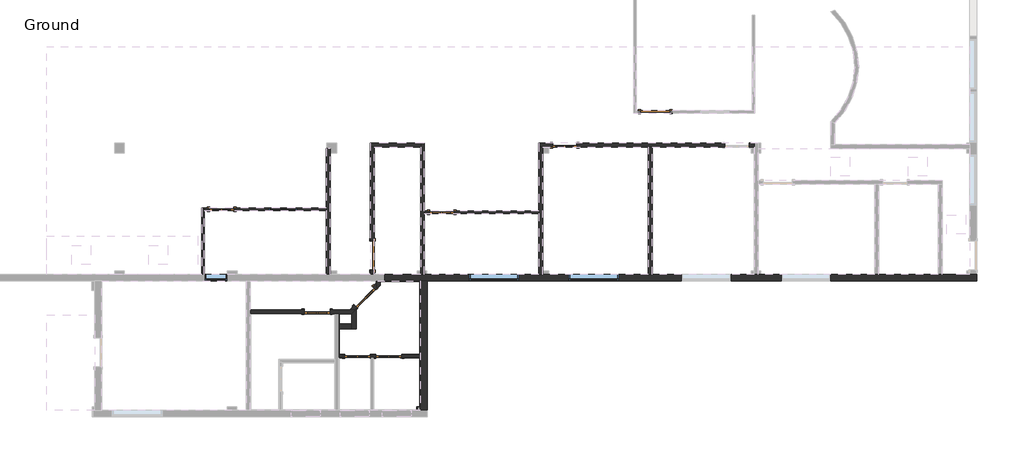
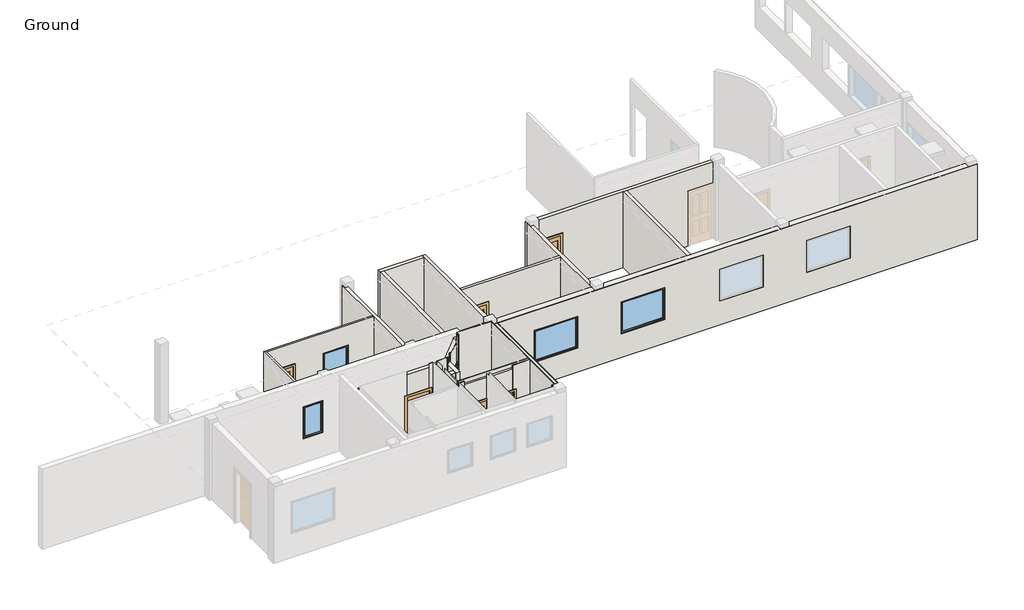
# One storey, part 2 of 4: 34 walls, 9 doors, 4 windows.
"""IFC4 building model written with IfcOpenShell, lengths in millimetres."""

from ifc_helpers import new_model, si_unit, frame, origin, origin_with_axes, place, context, project, spatial, polyline, outline, extrude, faceted_brep, transform, mapped, element, save
from components import door_43f271b1, door_e28fd1ca, door_ea126e43, door_dc1c1a0d, door_456b505c, door_238e255b, door_9f33a548, door_317ed896, window_b7da1b20, window_74e4fc61, window_a0bf6c86

model = new_model("IFC4")

# Units and contexts
model_context = context("Model", 3, world=origin())
ifc_project = project(units=[si_unit("LENGTHUNIT", "METRE", prefix="MILLI")], contexts=[model_context])

# Site, building, storey
site = spatial("IfcSite", under=ifc_project)
building = spatial("IfcBuilding", under=site)
storey = spatial("IfcBuildingStorey", under=building, Name="Ground", Elevation=0.0)

# Doors
placement = place(None, origin())
door_shape = door_43f271b1(model_context)
element("IfcDoor", 1, ObjectType="Single-Flush : 36\" x 80\" - D1", at=placement, inside=storey, context=model_context, shape_type="MappedRepresentation", body=[
    mapped(door_shape, transform((-25082.102824, 9569.42279, 0.0), x_axis=(0.0, -1.0, 0.0), y_axis=(1.0, 0.0, 0.0), z_axis=(0.0, 0.0, 1.0))),
])
door_2_shape = door_e28fd1ca(model_context)
element("IfcDoor", 2, ObjectType="Single-Flush : 36\" x 80\" - D1", at=placement, inside=storey, context=model_context, shape_type="MappedRepresentation", body=[
    mapped(door_2_shape, transform((-16141.302824, 14111.26029, 0.0), x_axis=(-0.9999999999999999, 0.0, 0.0), y_axis=(0.0, -0.9999999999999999, 0.0), z_axis=(0.0, 0.0, 1.0))),
])
door_3_shape = door_ea126e43(model_context)
element("IfcDoor", 3, ObjectType="Single-Glass 3 : 30\" x 80\" - D3", at=placement, inside=storey, context=model_context, shape_type="MappedRepresentation", body=[
    mapped(door_3_shape, transform((-22891.352824, 10934.67279, 0.0), x_axis=(-1.0, 0.0, 0.0), y_axis=(0.0, -1.0, 0.0), z_axis=(0.0, 0.0, 1.0))),
])
element("IfcDoor", 4, ObjectType="Single-Glass 3 : 30\" x 80\" - D3", at=placement, inside=storey, context=model_context, shape_type="MappedRepresentation", body=[
    mapped(door_3_shape, transform((-29843.015324, 11026.74779, 0.0), x_axis=(-1.0, 0.0, 0.0), y_axis=(0.0, -1.0, 0.0), z_axis=(0.0, 0.0, 1.0))),
])
door_4_shape = door_dc1c1a0d(model_context)
element("IfcDoor", 5, ObjectType="Single-Glass 3 : 30\" x 80\" - D3", at=placement, inside=storey, context=model_context, shape_type="MappedRepresentation", body=[
    mapped(door_4_shape, transform((-19005.152824, 13055.57279, 0.0), x_axis=(-1.0, 0.0, 0.0), y_axis=(0.0, -1.0, 0.0), z_axis=(0.0, 0.0, 1.0))),
])
door_5_shape = door_456b505c(model_context)
element("IfcDoor", 6, ObjectType="Single-Glass 3 : 32\" x 80\" - D2", at=placement, inside=storey, context=model_context, shape_type="MappedRepresentation", body=[
    mapped(door_5_shape, transform((-25552.002824, 6378.54779, 0.0), x_axis=(1.0, 0.0, 0.0), y_axis=(0.0, 1.0, 0.0), z_axis=(0.0, 0.0, 1.0))),
])
door_6_shape = door_238e255b(model_context)
element("IfcDoor", 7, ObjectType="Single-Glass 3 : 32\" x 80\" - D2", at=placement, inside=storey, context=model_context, shape_type="MappedRepresentation", body=[
    mapped(door_6_shape, transform((-25316.8739196, 8245.6266944, 0.0), x_axis=(-0.707106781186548, -0.7071067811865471, 0.0), y_axis=(0.7071067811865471, -0.707106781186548, 0.0), z_axis=(0.0, 0.0, 1.0))),
])
door_7_shape = door_9f33a548(model_context)
element("IfcDoor", 8, ObjectType="Single-Glass 3 : 32\" x 80\" - D2", at=placement, inside=storey, context=model_context, shape_type="MappedRepresentation", body=[
    mapped(door_7_shape, transform((-26822.002824, 7788.24779, 0.0), x_axis=(1.0, 0.0, 0.0), y_axis=(0.0, 1.0, 0.0), z_axis=(0.0, 0.0, 1.0))),
])
door_8_shape = door_317ed896(model_context)
element("IfcDoor", 9, ObjectType="Single-Glass 3 : 32\" x 80\" - D2", at=placement, inside=storey, context=model_context, shape_type="MappedRepresentation", body=[
    mapped(door_8_shape, transform((-24561.402824, 6378.54779, 0.0), x_axis=(-1.0, 0.0, 0.0), y_axis=(0.0, -1.0, 0.0), z_axis=(0.0, 0.0, 1.0))),
])

# Walls
element("IfcWall", 10, ObjectType="0.5\" wall tiles-4\" x 6\"", at=placement, inside=storey, context=model_context, shape_type="SweptSolid", body=[
    extrude(outline(polyline([(-26415.602824, 7724.74779), (-26275.902824, 7724.74779), (-26275.902824, 7712.04779), (-26415.602824, 7712.04779), (-26415.602824, 7724.74779)])), origin_with_axes(), (0.0, 0.0, 1.0), 3048.0),
])
element("IfcWall", 11, ObjectType="0.5\" wall tiles-4\" x 6\"", at=placement, inside=storey, context=model_context, shape_type="Brep", body=[
    faceted_brep([(-25560.375674, 7914.5674429, 0.0), (-25586.4560212, 7888.4870957, 0.0), (-25586.4560212, 7888.4870957, 2743.2), (-25586.4560212, 7888.4870957, 3048.0), (-25560.375674, 7914.5674429, 3048.0), (-25551.3954179, 7905.5871868, 0.0), (-25551.3954179, 7905.5871868, 3048.0), (-25586.4560212, 7870.5265835, 3048.0), (-25586.4560212, 7870.5265835, 0.0)], [[[0, 1, 2, 3, 4]], [[5, 6, 7, 8]], [[1, 0, 5, 8]], [[4, 3, 7, 6]], [[0, 4, 6, 5]], [[3, 2, 1, 8, 7]]]),
])
element("IfcWall", 12, ObjectType="0.5\" wall tiles-4\" x 6\"", at=placement, inside=storey, context=model_context, shape_type="Brep", body=[
    faceted_brep([(-25750.1953269, 7724.74779, 0.0), (-26136.202824, 7724.74779, 0.0), (-26136.202824, 7724.74779, 3048.0), (-25750.1953269, 7724.74779, 3048.0), (-25762.8953269, 7712.04779, 0.0), (-25762.8953269, 7712.04779, 3048.0), (-26123.502824, 7712.04779, 3048.0), (-26136.202824, 7712.04779, 3048.0), (-26136.202824, 7712.04779, 0.0), (-26123.502824, 7712.04779, 0.0)], [[[0, 1, 2, 3]], [[4, 5, 6, 7, 8, 9]], [[1, 0, 4, 9, 8]], [[3, 2, 7, 6, 5]], [[2, 1, 8, 7]], [[0, 3, 5, 4]]]),
])
element("IfcWall", 13, ObjectType="0.5\" wall tiles-4\" x 6\"", at=placement, inside=storey, context=model_context, shape_type="Brep", body=[
    faceted_brep([(-26136.202824, 7712.04779, 0.0), (-26136.202824, 7394.54779, 0.0), (-26136.202824, 7394.54779, 2743.2), (-26136.202824, 7394.54779, 3048.0), (-26136.202824, 7712.04779, 3048.0), (-26123.502824, 7712.04779, 0.0), (-26123.502824, 7712.04779, 3048.0), (-26123.502824, 7394.54779, 3048.0), (-26123.502824, 7394.54779, 0.0)], [[[0, 1, 2, 3, 4]], [[5, 6, 7, 8]], [[1, 0, 5, 8]], [[4, 3, 7, 6]], [[0, 4, 6, 5]], [[3, 2, 1, 8, 7]]]),
])
element("IfcWall", 14, ObjectType="0.5\" wall tiles-4\" x 6\"", at=placement, inside=storey, context=model_context, shape_type="Brep", body=[
    faceted_brep([(-25145.7268406, 6418.23529, 2032.0), (-25145.7268406, 6418.23529, 0.0), (-24967.6788075, 6418.23529, 0.0), (-24967.6788075, 6418.23529, 2032.0), (-24154.8788075, 6418.23529, 2032.0), (-24154.8788075, 6418.23529, 0.0), (-23566.040324, 6418.23529, 0.0), (-23566.040324, 6418.23529, 2895.6), (-23566.040324, 6418.23529, 3048.0), (-26136.202824, 6418.23529, 3048.0), (-26136.202824, 6418.23529, 2895.6), (-26136.202824, 6418.23529, 0.0), (-25958.5268406, 6418.23529, 0.0), (-25958.5268406, 6418.23529, 2032.0), (-24967.6788075, 6430.93529, 0.0), (-25145.7268406, 6430.93529, 0.0), (-25145.7268406, 6430.93529, 2032.0), (-25958.5268406, 6430.93529, 2032.0), (-25958.5268406, 6430.93529, 0.0), (-26123.502824, 6430.93529, 0.0), (-26136.202824, 6430.93529, 0.0), (-26136.202824, 6430.93529, 3048.0), (-26123.502824, 6430.93529, 3048.0), (-23578.740324, 6430.93529, 3048.0), (-23566.040324, 6430.93529, 3048.0), (-23566.040324, 6430.93529, 0.0), (-23578.740324, 6430.93529, 0.0), (-24154.8788075, 6430.93529, 0.0), (-24154.8788075, 6430.93529, 2032.0), (-24967.6788075, 6430.93529, 2032.0)], [[[0, 1, 2, 3, 4, 5, 6, 7, 8, 9, 10, 11, 12, 13]], [[14, 15, 16, 17, 18, 19, 20, 21, 22, 23, 24, 25, 26, 27, 28, 29]], [[2, 1, 15, 14]], [[27, 26, 25, 6, 5]], [[12, 11, 20, 19, 18]], [[9, 8, 24, 23, 22, 21]], [[11, 10, 9, 21, 20]], [[8, 7, 6, 25, 24]], [[3, 2, 14, 29]], [[4, 3, 29, 28]], [[5, 4, 28, 27]], [[16, 15, 1, 0]], [[17, 16, 0, 13]], [[18, 17, 13, 12]]]),
])
element("IfcWall", 15, ObjectType="0.5\" wall tiles-4\" x 6\"", at=placement, inside=storey, context=model_context, shape_type="Brep", body=[
    faceted_brep([(-26136.202824, 7242.14779, 0.0), (-26136.202824, 6430.93529, 0.0), (-26136.202824, 6430.93529, 3048.0), (-26136.202824, 7242.14779, 3048.0), (-26136.202824, 7242.14779, 2743.2), (-26123.502824, 7242.14779, 0.0), (-26123.502824, 7242.14779, 3048.0), (-26123.502824, 6430.93529, 3048.0), (-26123.502824, 6430.93529, 0.0)], [[[0, 1, 2, 3, 4]], [[5, 6, 7, 8]], [[1, 0, 5, 8]], [[3, 2, 7, 6]], [[2, 1, 8, 7]], [[0, 4, 3, 6, 5]]]),
])
element("IfcWall", 16, ObjectType="0.5\" wall tiles-4\" x 6\"", at=placement, inside=storey, context=model_context, shape_type="Brep", body=[
    faceted_brep([(-25738.8560212, 7736.0870957, 0.0), (-25750.1953269, 7724.74779, 0.0), (-25762.8953269, 7712.04779, 0.0), (-25762.8953269, 7712.04779, 3048.0), (-25750.1953269, 7724.74779, 3048.0), (-25738.8560212, 7736.0870957, 3048.0), (-25738.8560212, 7736.0870957, 2743.2), (-25738.8560212, 7718.1265835, 0.0), (-25738.8560212, 7718.1265835, 3048.0), (-25744.9348146, 7712.04779, 3048.0), (-25744.9348146, 7712.04779, 0.0)], [[[0, 1, 2, 3, 4, 5, 6]], [[7, 8, 9, 10]], [[2, 1, 0, 7, 10]], [[5, 4, 3, 9, 8]], [[3, 2, 10, 9]], [[0, 6, 5, 8, 7]]]),
])
element("IfcWall", 17, ObjectType="0.5\" wall tiles-4\" x 6\"", at=placement, inside=storey, context=model_context, shape_type="Brep", body=[
    faceted_brep([(-23566.040324, 6430.93529, 0.0), (-23566.040324, 8753.44779, 0.0), (-23566.040324, 8753.44779, 3048.0), (-23566.040324, 6430.93529, 3048.0), (-23578.740324, 6430.93529, 0.0), (-23578.740324, 6430.93529, 3048.0), (-23578.740324, 8740.74779, 3048.0), (-23578.740324, 8753.44779, 3048.0), (-23578.740324, 8753.44779, 0.0), (-23578.740324, 8740.74779, 0.0)], [[[0, 1, 2, 3]], [[4, 5, 6, 7, 8, 9]], [[1, 0, 4, 9, 8]], [[3, 2, 7, 6, 5]], [[2, 1, 8, 7]], [[0, 3, 5, 4]]]),
])
element("IfcWall", 18, ObjectType="0.5\" wall tiles-4\" x 6\"", at=placement, inside=storey, context=model_context, shape_type="Brep", body=[
    faceted_brep([(-23578.740324, 8753.44779, 0.0), (-24836.040324, 8753.44779, 0.0), (-24836.040324, 8753.44779, 3048.0), (-23578.740324, 8753.44779, 3048.0), (-23578.740324, 8740.74779, 0.0), (-23578.740324, 8740.74779, 3048.0), (-24823.340324, 8740.74779, 3048.0), (-24836.040324, 8740.74779, 3048.0), (-24836.040324, 8740.74779, 0.0), (-24823.340324, 8740.74779, 0.0)], [[[0, 1, 2, 3]], [[4, 5, 6, 7, 8, 9]], [[1, 0, 4, 9, 8]], [[3, 2, 7, 6, 5]], [[2, 1, 8, 7]], [[0, 3, 5, 4]]]),
])
element("IfcWall", 19, ObjectType="0.5\" wall tiles-4\" x 6\"", at=placement, inside=storey, context=model_context, shape_type="Brep", body=[
    faceted_brep([(-24836.040324, 8740.74779, 0.0), (-24836.040324, 8638.9027929, 0.0), (-24836.040324, 8620.9422806, 0.0), (-24836.040324, 8620.9422806, 3048.0), (-24836.040324, 8638.9027929, 3048.0), (-24836.040324, 8740.74779, 3048.0), (-24823.340324, 8740.74779, 0.0), (-24823.340324, 8740.74779, 3048.0), (-24823.340324, 8633.6422806, 3048.0), (-24823.340324, 8633.6422806, 0.0)], [[[0, 1, 2, 3, 4, 5]], [[6, 7, 8, 9]], [[2, 1, 0, 6, 9]], [[5, 4, 3, 8, 7]], [[3, 2, 9, 8]], [[0, 5, 7, 6]]]),
])
element("IfcWall", 20, ObjectType="0.5\" wall tiles-4\" x 6\"", at=placement, inside=storey, context=model_context, shape_type="SweptSolid", body=[
    extrude(outline(polyline([(-24984.7299377, 8490.2131792), (-24836.040324, 8638.9027929), (-24836.040324, 8620.9422806), (-24975.7496815, 8481.2329231), (-24984.7299377, 8490.2131792)])), origin_with_axes(), (0.0, 0.0, 1.0), 3048.0),
])
element("IfcWall", 21, ObjectType="0.5\" wall tiles-4\" x 6\"", at=placement, inside=storey, context=model_context, shape_type="Brep", body=[
    faceted_brep([(-25958.5268406, 6338.86029, 0.0), (-26136.202824, 6338.86029, 0.0), (-26136.202824, 6338.86029, 3048.0), (-25958.5268406, 6338.86029, 3048.0), (-25958.5268406, 6326.16029, 0.0), (-25958.5268406, 6326.16029, 3048.0), (-26123.502824, 6326.16029, 3048.0), (-26136.202824, 6326.16029, 3048.0), (-26136.202824, 6326.16029, 0.0), (-26123.502824, 6326.16029, 0.0)], [[[0, 1, 2, 3]], [[4, 5, 6, 7, 8, 9]], [[1, 0, 4, 9, 8]], [[3, 2, 7, 6, 5]], [[0, 3, 5, 4]], [[2, 1, 8, 7]]]),
])
element("IfcWall", 22, ObjectType="0.5\" wall tiles-4\" x 6\"", at=placement, inside=storey, context=model_context, shape_type="Brep", body=[
    faceted_brep([(-23664.465324, 4687.86029, 0.0), (-23664.465324, 4773.58529, 0.0), (-23664.465324, 4786.28529, 0.0), (-23664.465324, 4786.28529, 3048.0), (-23664.465324, 4773.58529, 3048.0), (-23664.465324, 4687.86029, 3048.0), (-23677.165324, 4687.86029, 0.0), (-23677.165324, 4687.86029, 3048.0), (-23677.165324, 4786.28529, 3048.0), (-23677.165324, 4786.28529, 0.0)], [[[0, 1, 2, 3, 4, 5]], [[6, 7, 8, 9]], [[2, 1, 0, 6, 9]], [[5, 4, 3, 8, 7]], [[3, 2, 9, 8]], [[0, 5, 7, 6]]]),
])
element("IfcWall", 23, ObjectType="0.5\" wall tiles-4\" x 6\"", at=placement, inside=storey, context=model_context, shape_type="Brep", body=[
    faceted_brep([(-23664.465324, 4773.58529, 0.0), (-23566.040324, 4773.58529, 0.0), (-23566.040324, 4773.58529, 3048.0), (-23664.465324, 4773.58529, 3048.0), (-23664.465324, 4786.28529, 0.0), (-23664.465324, 4786.28529, 3048.0), (-23578.740324, 4786.28529, 3048.0), (-23566.040324, 4786.28529, 3048.0), (-23566.040324, 4786.28529, 0.0), (-23578.740324, 4786.28529, 0.0)], [[[0, 1, 2, 3]], [[4, 5, 6, 7, 8, 9]], [[1, 0, 4, 9, 8]], [[3, 2, 7, 6, 5]], [[2, 1, 8, 7]], [[0, 3, 5, 4]]]),
])
element("IfcWall", 24, ObjectType="0.5\" wall tiles-4\" x 6\"", at=placement, inside=storey, context=model_context, shape_type="Brep", body=[
    faceted_brep([(-23566.040324, 4786.28529, 0.0), (-23566.040324, 6338.86029, 0.0), (-23566.040324, 6338.86029, 3048.0), (-23566.040324, 4786.28529, 3048.0), (-23578.740324, 4786.28529, 0.0), (-23578.740324, 4786.28529, 3048.0), (-23578.740324, 6326.16029, 3048.0), (-23578.740324, 6338.86029, 3048.0), (-23578.740324, 6338.86029, 0.0), (-23578.740324, 6326.16029, 0.0)], [[[0, 1, 2, 3]], [[4, 5, 6, 7, 8, 9]], [[1, 0, 4, 9, 8]], [[3, 2, 7, 6, 5]], [[2, 1, 8, 7]], [[0, 3, 5, 4]]]),
])
element("IfcWall", 25, ObjectType="0.5\" wall tiles-4\" x 6\"", at=placement, inside=storey, context=model_context, shape_type="SweptSolid", body=[
    extrude(outline(polyline([(-24204.3928001, 6338.86029), (-23578.740324, 6338.86029), (-23578.740324, 6326.16029), (-24204.3928001, 6326.16029), (-24204.3928001, 6338.86029)])), origin_with_axes(), (0.0, 0.0, 1.0), 3048.0),
])
element("IfcWall", 26, ObjectType="Generic - 6\"", at=placement, inside=storey, context=model_context, shape_type="Brep", body=[
    faceted_brep([(-25738.8560212, 7736.0870957, 0.0), (-25738.8560212, 7718.1265835, 0.0), (-25738.8560212, 7394.54779, 0.0), (-25738.8560212, 7242.14779, 0.0), (-25738.8560212, 7242.14779, 2743.2), (-25738.8560212, 7394.54779, 2743.2), (-25738.8560212, 7736.0870957, 2743.2), (-25586.4560212, 7888.4870957, 0.0), (-25586.4560212, 7888.4870957, 2743.2), (-25586.4560212, 7242.14779, 2743.2), (-25586.4560212, 7242.14779, 0.0), (-25586.4560212, 7870.5265835, 0.0), (-25623.1953269, 7851.74779, 0.0)], [[[0, 1, 2, 3, 4, 5, 6]], [[7, 8, 9, 10, 11]], [[3, 2, 1, 0, 12, 7, 11, 10]], [[6, 5, 4, 9, 8]], [[4, 3, 10, 9]], [[0, 6, 8, 7, 12]]]),
])
element("IfcWall", 27, ObjectType="Generic - 6\"", at=placement, inside=storey, context=model_context, shape_type="Brep", body=[
    faceted_brep([(-25738.8560212, 7394.54779, 0.0), (-26123.502824, 7394.54779, 0.0), (-26136.202824, 7394.54779, 0.0), (-26136.202824, 7394.54779, 2743.2), (-25738.8560212, 7394.54779, 2743.2), (-25738.8560212, 7242.14779, 0.0), (-25738.8560212, 7242.14779, 2743.2), (-26136.202824, 7242.14779, 2743.2), (-26136.202824, 7242.14779, 0.0), (-26123.502824, 7242.14779, 0.0)], [[[0, 1, 2, 3, 4]], [[5, 6, 7, 8, 9]], [[2, 1, 0, 5, 9, 8]], [[4, 3, 7, 6]], [[3, 2, 8, 7]], [[0, 4, 6, 5]]]),
])
element("IfcWall", 28, ObjectType="Generic - 8\" Masonry existing", at=placement, inside=storey, context=model_context, shape_type="Brep", body=[
    faceted_brep([(-24701.102824, 8753.44779, 0.0), (-23566.040324, 8753.44779, 0.0), (-23346.965324, 8753.44779, 0.0), (-5986.065324, 8753.44779, 0.0), (-5986.065324, 8753.44779, 2895.6), (-5998.765324, 8753.44779, 2895.6), (-23346.965324, 8753.44779, 2895.6), (-23566.040324, 8753.44779, 2895.6), (-24701.102824, 8753.44779, 2895.6), (-22021.402824, 8753.44779, 2133.6), (-20446.602824, 8753.44779, 2133.6), (-20446.602824, 8753.44779, 914.4), (-22021.402824, 8753.44779, 914.4), (-18871.802824, 8753.44779, 2133.6), (-17297.002824, 8753.44779, 2133.6), (-17297.002824, 8753.44779, 914.4), (-18871.802824, 8753.44779, 914.4), (-12166.202824, 8753.44779, 2133.6), (-10591.402824, 8753.44779, 2133.6), (-10591.402824, 8753.44779, 914.4), (-12166.202824, 8753.44779, 914.4), (-15315.802824, 8753.44779, 2133.6), (-13741.002824, 8753.44779, 2133.6), (-13741.002824, 8753.44779, 914.4), (-15315.802824, 8753.44779, 914.4), (-24701.102824, 8972.52279, 0.0), (-24701.102824, 8972.52279, 2895.6), (-23556.515324, 8972.52279, 2895.6), (-23432.690324, 8972.52279, 2895.6), (-19827.477824, 8972.52279, 2895.6), (-19703.652824, 8972.52279, 2895.6), (-16355.615324, 8972.52279, 2895.6), (-16231.790324, 8972.52279, 2895.6), (-13015.515324, 8972.52279, 2895.6), (-12891.690324, 8972.52279, 2895.6), (-9207.102824, 8972.52279, 2895.6), (-9083.277824, 8972.52279, 2895.6), (-7195.740324, 8972.52279, 2895.6), (-7071.915324, 8972.52279, 2895.6), (-6205.140324, 8972.52279, 2895.6), (-5998.765324, 8972.52279, 2895.6), (-5986.065324, 8972.52279, 2895.6), (-5986.065324, 8972.52279, 0.0), (-6205.140324, 8972.52279, 0.0), (-7071.915324, 8972.52279, 0.0), (-7195.740324, 8972.52279, 0.0), (-9083.277824, 8972.52279, 0.0), (-9207.102824, 8972.52279, 0.0), (-12891.690324, 8972.52279, 0.0), (-13015.515324, 8972.52279, 0.0), (-16231.790324, 8972.52279, 0.0), (-16355.615324, 8972.52279, 0.0), (-19703.652824, 8972.52279, 0.0), (-19827.477824, 8972.52279, 0.0), (-23432.690324, 8972.52279, 0.0), (-23556.515324, 8972.52279, 0.0), (-22021.402824, 8972.52279, 2133.6), (-22021.402824, 8972.52279, 914.4), (-20446.602824, 8972.52279, 914.4), (-20446.602824, 8972.52279, 2133.6), (-18871.802824, 8972.52279, 2133.6), (-18871.802824, 8972.52279, 914.4), (-17297.002824, 8972.52279, 914.4), (-17297.002824, 8972.52279, 2133.6), (-12166.202824, 8972.52279, 2133.6), (-12166.202824, 8972.52279, 914.4), (-10591.402824, 8972.52279, 914.4), (-10591.402824, 8972.52279, 2133.6), (-15315.802824, 8972.52279, 2133.6), (-15315.802824, 8972.52279, 914.4), (-13741.002824, 8972.52279, 914.4), (-13741.002824, 8972.52279, 2133.6), (-24701.102824, 8766.14779, 2895.6), (-5986.065324, 8766.14779, 2895.6), (-5998.765324, 8766.14779, 2895.6), (-23359.665324, 8766.14779, 2895.6)], [[[0, 1, 2, 3, 4, 5, 6, 7, 8], [9, 10, 11, 12], [13, 14, 15, 16], [17, 18, 19, 20], [21, 22, 23, 24]], [[25, 26, 27, 28, 29, 30, 31, 32, 33, 34, 35, 36, 37, 38, 39, 40, 41, 42, 43, 44, 45, 46, 47, 48, 49, 50, 51, 52, 53, 54, 55], [56, 57, 58, 59], [60, 61, 62, 63], [64, 65, 66, 67], [68, 69, 70, 71]], [[3, 2, 1, 0, 25, 55, 54, 53, 52, 51, 50, 49, 48, 47, 46, 45, 44, 43, 42]], [[0, 8, 72, 26, 25]], [[4, 3, 42, 41, 73]], [[8, 7, 6, 5, 74, 75, 72]], [[73, 41, 40, 74]], [[5, 4, 73, 74]], [[74, 40, 39, 38, 37, 36, 35, 34, 33, 32, 31, 30, 29, 28, 27, 26, 72, 75]], [[57, 56, 9, 12]], [[58, 57, 12, 11]], [[59, 58, 11, 10]], [[56, 59, 10, 9]], [[61, 60, 13, 16]], [[62, 61, 16, 15]], [[63, 62, 15, 14]], [[60, 63, 14, 13]], [[65, 64, 17, 20]], [[66, 65, 20, 19]], [[67, 66, 19, 18]], [[64, 67, 18, 17]], [[69, 68, 21, 24]], [[70, 69, 24, 23]], [[71, 70, 23, 22]], [[68, 71, 22, 21]]]),
])
element("IfcWall", 29, ObjectType="Generic - 8\" Masonry existing", at=placement, inside=storey, context=model_context, shape_type="Brep", body=[
    faceted_brep([(-23566.040324, 8753.44779, 0.0), (-23566.040324, 6418.23529, 0.0), (-23566.040324, 6338.86029, 0.0), (-23566.040324, 4675.16029, 0.0), (-23566.040324, 4675.16029, 2895.6), (-23566.040324, 6338.86029, 2895.6), (-23566.040324, 6418.23529, 2895.6), (-23566.040324, 8753.44779, 2895.6), (-23346.965324, 8753.44779, 0.0), (-23346.965324, 8753.44779, 2895.6), (-23346.965324, 4675.16029, 2895.6), (-23346.965324, 4675.16029, 0.0), (-23359.665324, 4675.16029, 2895.6), (-23359.665324, 8753.44779, 2895.6)], [[[0, 1, 2, 3, 4, 5, 6, 7]], [[8, 9, 10, 11]], [[3, 2, 1, 0, 8, 11]], [[4, 3, 11, 10, 12]], [[0, 7, 13, 9, 8]], [[12, 10, 9, 13]], [[7, 6, 5, 4, 12, 13]]]),
])
element("IfcWall", 30, ObjectType="Interior - 3 1/8\" Partition (1-hr)", at=placement, inside=storey, context=model_context, shape_type="Brep", body=[
    faceted_brep([(-30476.427824, 11066.43529, 0.0), (-30476.427824, 8972.52279, 0.0), (-30476.427824, 8972.52279, 2895.6), (-30476.427824, 11066.43529, 2895.6), (-30397.052824, 11066.43529, 0.0), (-30397.052824, 11066.43529, 2895.6), (-30397.052824, 10987.06029, 2895.6), (-30397.052824, 8972.52279, 2895.6), (-30397.052824, 8972.52279, 0.0), (-30397.052824, 10987.06029, 0.0)], [[[0, 1, 2, 3]], [[4, 5, 6, 7, 8, 9]], [[1, 0, 4, 9, 8]], [[3, 2, 7, 6, 5]], [[0, 3, 5, 4]], [[2, 1, 8, 7]]]),
])
element("IfcWall", 31, ObjectType="Interior - 3 1/8\" Partition (1-hr)", at=placement, inside=storey, context=model_context, shape_type="SweptSolid", body=[
    extrude(outline(polyline([(0.0, -23432.690324), (0.0, -23272.2288075), (2032.0, -23272.2288075), (2032.0, -22510.2288075), (0.0, -22510.2288075), (0.0, -19827.477824), (2895.6, -19827.477824), (2895.6, -23432.690324), (0.0, -23432.690324)])), frame((0.0, 10894.98529, 0.0), z_axis=(0.0, 1.0, 0.0), x_axis=(0.0, 0.0, 1.0)), (0.0, 0.0, 1.0), 79.375),
])
element("IfcWall", 32, ObjectType="Interior - 3 1/8\" Partition (1-hr)", at=placement, inside=storey, context=model_context, shape_type="SweptSolid", body=[
    extrude(outline(polyline([(0.0, -30397.052824), (0.0, -30223.8913075), (2032.0, -30223.8913075), (2032.0, -29461.8913075), (0.0, -29461.8913075), (0.0, -26533.077824), (2895.6, -26533.077824), (2895.6, -30397.052824), (0.0, -30397.052824)]), holes=[polyline([(2133.6, -28369.815324), (2133.6, -27455.415324), (914.4, -27455.415324), (914.4, -28369.815324), (2133.6, -28369.815324)])]), frame((0.0, 10987.06029, 0.0), z_axis=(0.0, 1.0, 0.0), x_axis=(0.0, 0.0, 1.0)), (0.0, 0.0, 1.0), 79.375),
])
element("IfcWall", 33, ObjectType="Interior - 3 1/8\" Partition (1-hr)", at=placement, inside=storey, context=model_context, shape_type="Brep", body=[
    faceted_brep([(-25145.7268406, 6338.86029, 2032.0), (-25145.7268406, 6338.86029, 0.0), (-25123.377824, 6338.86029, 0.0), (-25044.002824, 6338.86029, 0.0), (-24967.6788075, 6338.86029, 0.0), (-24967.6788075, 6338.86029, 2032.0), (-24154.8788075, 6338.86029, 2032.0), (-24154.8788075, 6338.86029, 0.0), (-23566.040324, 6338.86029, 0.0), (-23566.040324, 6338.86029, 2895.6), (-25044.002824, 6338.86029, 2895.6), (-25123.377824, 6338.86029, 2895.6), (-26136.202824, 6338.86029, 2895.6), (-26136.202824, 6338.86029, 0.0), (-25958.5268406, 6338.86029, 0.0), (-25958.5268406, 6338.86029, 2032.0), (-24967.6788075, 6418.23529, 0.0), (-25145.7268406, 6418.23529, 0.0), (-25145.7268406, 6418.23529, 2032.0), (-25958.5268406, 6418.23529, 2032.0), (-25958.5268406, 6418.23529, 0.0), (-26136.202824, 6418.23529, 0.0), (-26136.202824, 6418.23529, 2895.6), (-23566.040324, 6418.23529, 2895.6), (-23566.040324, 6418.23529, 0.0), (-24154.8788075, 6418.23529, 0.0), (-24154.8788075, 6418.23529, 2032.0), (-24967.6788075, 6418.23529, 2032.0)], [[[0, 1, 2, 3, 4, 5, 6, 7, 8, 9, 10, 11, 12, 13, 14, 15]], [[16, 17, 18, 19, 20, 21, 22, 23, 24, 25, 26, 27]], [[4, 3, 2, 1, 17, 16]], [[25, 24, 8, 7]], [[14, 13, 21, 20]], [[12, 11, 10, 9, 23, 22]], [[9, 8, 24, 23]], [[13, 12, 22, 21]], [[5, 4, 16, 27]], [[6, 5, 27, 26]], [[7, 6, 26, 25]], [[18, 17, 1, 0]], [[19, 18, 0, 15]], [[20, 19, 15, 14]]]),
])
element("IfcWall", 34, ObjectType="Interior - 5 1/2\" Partition (1-hr)", at=placement, inside=storey, context=model_context, shape_type="Brep", body=[
    faceted_brep([(-13015.515324, 13117.48529, 0.0), (-13175.9768406, 13117.48529, 0.0), (-13175.9768406, 13117.48529, 2032.0), (-13937.9768406, 13117.48529, 2032.0), (-13937.9768406, 13117.48529, 0.0), (-18624.0288075, 13117.48529, 0.0), (-18624.0288075, 13117.48529, 2032.0), (-19386.0288075, 13117.48529, 2032.0), (-19386.0288075, 13117.48529, 0.0), (-19827.477824, 13117.48529, 0.0), (-19827.477824, 13117.48529, 2895.6), (-13015.515324, 13117.48529, 2895.6), (-13175.9768406, 12993.66029, 2032.0), (-13175.9768406, 12993.66029, 0.0), (-13015.515324, 12993.66029, 0.0), (-13015.515324, 12993.66029, 2895.6), (-16231.790324, 12993.66029, 2895.6), (-16355.615324, 12993.66029, 2895.6), (-19703.652824, 12993.66029, 2895.6), (-19827.477824, 12993.66029, 2895.6), (-19827.477824, 12993.66029, 0.0), (-19703.652824, 12993.66029, 0.0), (-19386.0288075, 12993.66029, 0.0), (-19386.0288075, 12993.66029, 2032.0), (-18624.0288075, 12993.66029, 2032.0), (-18624.0288075, 12993.66029, 0.0), (-16355.615324, 12993.66029, 0.0), (-16231.790324, 12993.66029, 0.0), (-13937.9768406, 12993.66029, 0.0), (-13937.9768406, 12993.66029, 2032.0)], [[[0, 1, 2, 3, 4, 5, 6, 7, 8, 9, 10, 11]], [[12, 13, 14, 15, 16, 17, 18, 19, 20, 21, 22, 23, 24, 25, 26, 27, 28, 29]], [[20, 9, 8, 22, 21]], [[14, 13, 1, 0]], [[28, 27, 26, 25, 5, 4]], [[11, 10, 19, 18, 17, 16, 15]], [[10, 9, 20, 19]], [[0, 11, 15, 14]], [[7, 23, 22, 8]], [[23, 7, 6, 24]], [[24, 6, 5, 25]], [[2, 1, 13, 12]], [[3, 2, 12, 29]], [[4, 3, 29, 28]]]),
])
element("IfcWall", 35, ObjectType="Interior - 5 1/2\" Partition (1-hr)", at=placement, inside=storey, context=model_context, shape_type="SweptSolid", body=[
    extrude(outline(polyline([(-16355.615324, 8972.52279), (-16355.615324, 12993.66029), (-16231.790324, 12993.66029), (-16231.790324, 8972.52279), (-16355.615324, 8972.52279)])), origin_with_axes(), (0.0, 0.0, 1.0), 2895.6),
])
element("IfcWall", 36, ObjectType="Interior - 5 1/2\" Partition (1-hr)", at=placement, inside=storey, context=model_context, shape_type="Brep", body=[
    faceted_brep([(-19703.652824, 8972.52279, 0.0), (-19703.652824, 12993.66029, 0.0), (-19703.652824, 12993.66029, 2895.6), (-19703.652824, 8972.52279, 2895.6), (-19827.477824, 8972.52279, 0.0), (-19827.477824, 8972.52279, 2895.6), (-19827.477824, 10894.98529, 2895.6), (-19827.477824, 10974.36029, 2895.6), (-19827.477824, 12993.66029, 2895.6), (-19827.477824, 12993.66029, 0.0), (-19827.477824, 10974.36029, 0.0), (-19827.477824, 10894.98529, 0.0)], [[[0, 1, 2, 3]], [[4, 5, 6, 7, 8, 9, 10, 11]], [[1, 0, 4, 11, 10, 9]], [[3, 2, 8, 7, 6, 5]], [[2, 1, 9, 8]], [[0, 3, 5, 4]]]),
])
element("IfcWall", 37, ObjectType="Interior - 5 1/2\" Partition (1-hr)", at=placement, inside=storey, context=model_context, shape_type="Brep", body=[
    faceted_brep([(-23556.515324, 13117.48529, 0.0), (-23556.515324, 12993.66029, 0.0), (-23556.515324, 8972.52279, 0.0), (-23556.515324, 8972.52279, 2895.6), (-23556.515324, 12993.66029, 2895.6), (-23556.515324, 13117.48529, 2895.6), (-23432.690324, 13117.48529, 0.0), (-23432.690324, 13117.48529, 2895.6), (-23432.690324, 10974.36029, 2895.6), (-23432.690324, 10894.98529, 2895.6), (-23432.690324, 8972.52279, 2895.6), (-23432.690324, 8972.52279, 0.0), (-23432.690324, 10894.98529, 0.0), (-23432.690324, 10974.36029, 0.0)], [[[0, 1, 2, 3, 4, 5]], [[6, 7, 8, 9, 10, 11, 12, 13]], [[2, 1, 0, 6, 13, 12, 11]], [[5, 4, 3, 10, 9, 8, 7]], [[0, 5, 7, 6]], [[3, 2, 11, 10]]]),
])
element("IfcWall", 38, ObjectType="Interior - 5 1/2\" Partition (1-hr)", at=placement, inside=storey, context=model_context, shape_type="Brep", body=[
    faceted_brep([(-26533.077824, 12947.62279, 0.0), (-26533.077824, 11066.43529, 0.0), (-26533.077824, 10987.06029, 0.0), (-26533.077824, 8972.52279, 0.0), (-26533.077824, 8972.52279, 2895.6), (-26533.077824, 10987.06029, 2895.6), (-26533.077824, 11066.43529, 2895.6), (-26533.077824, 12947.62279, 2895.6), (-26409.252824, 12947.62279, 0.0), (-26409.252824, 12947.62279, 2895.6), (-26409.252824, 8972.52279, 2895.6), (-26409.252824, 8972.52279, 0.0)], [[[0, 1, 2, 3, 4, 5, 6, 7]], [[8, 9, 10, 11]], [[3, 2, 1, 0, 8, 11]], [[7, 6, 5, 4, 10, 9]], [[0, 7, 9, 8]], [[4, 3, 11, 10]]]),
])
element("IfcWall", 39, ObjectType="Interior - 5 1/2\" Partition (1-hr)", at=placement, inside=storey, context=model_context, shape_type="Brep", body=[
    faceted_brep([(-23556.515324, 13117.48529, 0.0), (-25144.015324, 13117.48529, 0.0), (-25144.015324, 13117.48529, 2895.6), (-23556.515324, 13117.48529, 2895.6), (-23556.515324, 12993.66029, 0.0), (-23556.515324, 12993.66029, 2895.6), (-25020.190324, 12993.66029, 2895.6), (-25144.015324, 12993.66029, 2895.6), (-25144.015324, 12993.66029, 0.0), (-25020.190324, 12993.66029, 0.0)], [[[0, 1, 2, 3]], [[4, 5, 6, 7, 8, 9]], [[1, 0, 4, 9, 8]], [[3, 2, 7, 6, 5]], [[2, 1, 8, 7]], [[0, 3, 5, 4]]]),
])
element("IfcWall", 40, ObjectType="Interior - 5 1/2\" Partition (1-hr)", at=placement, inside=storey, context=model_context, shape_type="SweptSolid", body=[
    extrude(outline(polyline([(9112.22279, 2032.0), (9112.22279, 0.0), (8972.52279, 0.0), (8972.52279, 2895.6), (12993.66029, 2895.6), (12993.66029, 0.0), (10026.62279, 0.0), (10026.62279, 2032.0), (9112.22279, 2032.0)])), frame((-25144.015324, 0.0, 0.0), z_axis=(1.0, 0.0, 0.0), x_axis=(0.0, 1.0, 0.0)), (0.0, 0.0, 1.0), 123.825),
])
element("IfcWall", 41, ObjectType="Interior - 5 1/2\" Partition (1-hr)", at=placement, inside=storey, context=model_context, shape_type="Brep", body=[
    faceted_brep([(-24959.865324, 8753.44779, 0.0), (-24959.865324, 8690.1927872, 0.0), (-24959.865324, 8515.0777929, 0.0), (-24959.865324, 8515.0777929, 2895.6), (-24959.865324, 8690.1927872, 2895.6), (-24959.865324, 8753.44779, 2895.6), (-24836.040324, 8753.44779, 0.0), (-24836.040324, 8753.44779, 2895.6), (-24836.040324, 8638.9027929, 2895.6), (-24836.040324, 8638.9027929, 0.0)], [[[0, 1, 2, 3, 4, 5]], [[6, 7, 8, 9]], [[2, 1, 0, 6, 9]], [[5, 4, 3, 8, 7]], [[3, 2, 9, 8]], [[0, 5, 7, 6]]]),
])
element("IfcWall", 42, ObjectType="Interior - 5 1/2\" Partition (1-hr)", at=placement, inside=storey, context=model_context, shape_type="Brep", body=[
    faceted_brep([(-25798.3103212, 7851.74779, 2895.6), (-24959.865324, 8690.1927872, 2895.6), (-24959.865324, 8690.1927872, 0.0), (-25073.1967794, 8576.8613318, 0.0), (-25073.1967794, 8576.8613318, 2032.0), (-25647.9331712, 8002.1249401, 2032.0), (-25647.9331712, 8002.1249401, 0.0), (-25798.3103212, 7851.74779, 0.0), (-24959.865324, 8515.0777929, 2895.6), (-25623.1953269, 7851.74779, 2895.6), (-25623.1953269, 7851.74779, 0.0), (-25586.4560212, 7888.4870957, 0.0), (-25560.375674, 7914.5674429, 0.0), (-25560.375674, 7914.5674429, 2032.0), (-24985.6392823, 8489.3038346, 2032.0), (-24985.6392823, 8489.3038346, 0.0), (-24959.865324, 8515.0777929, 0.0)], [[[0, 1, 2, 3, 4, 5, 6, 7]], [[8, 9, 10, 11, 12, 13, 14, 15, 16]], [[2, 16, 15, 3]], [[10, 7, 6, 12, 11]], [[1, 0, 9, 8]], [[2, 1, 8, 16]], [[0, 7, 10, 9]], [[5, 13, 12, 6]], [[13, 5, 4, 14]], [[14, 4, 3, 15]]]),
])
element("IfcWall", 43, ObjectType="Interior - 5\" Partition (2-hr)", at=placement, inside=storey, context=model_context, shape_type="Brep", body=[
    faceted_brep([(-26415.7268406, 7724.74779, 2032.0), (-26415.7268406, 7724.74779, 0.0), (-26263.202824, 7724.74779, 0.0), (-26136.202824, 7724.74779, 0.0), (-25750.1953269, 7724.74779, 0.0), (-25750.1953269, 7724.74779, 2895.6), (-26136.202824, 7724.74779, 2895.6), (-26263.202824, 7724.74779, 2895.6), (-28941.315324, 7724.74779, 2895.6), (-28941.315324, 7724.74779, 0.0), (-27228.5268406, 7724.74779, 0.0), (-27228.5268406, 7724.74779, 2032.0), (-25623.1953269, 7851.74779, 0.0), (-25798.3103212, 7851.74779, 0.0), (-26415.7268406, 7851.74779, 0.0), (-26415.7268406, 7851.74779, 2032.0), (-27228.5268406, 7851.74779, 2032.0), (-27228.5268406, 7851.74779, 0.0), (-28941.315324, 7851.74779, 0.0), (-28941.315324, 7851.74779, 2032.0), (-28941.315324, 7851.74779, 2895.6), (-25798.3103212, 7851.74779, 2895.6), (-25623.1953269, 7851.74779, 2895.6)], [[[0, 1, 2, 3, 4, 5, 6, 7, 8, 9, 10, 11]], [[12, 13, 14, 15, 16, 17, 18, 19, 20, 21, 22]], [[4, 3, 2, 1, 14, 13, 12]], [[10, 9, 18, 17]], [[8, 7, 6, 5, 22, 21, 20]], [[5, 4, 12, 22]], [[9, 8, 20, 19, 18]], [[15, 14, 1, 0]], [[16, 15, 0, 11]], [[17, 16, 11, 10]]]),
])

# Windows
window_shape = window_b7da1b20(model_context)
element("IfcWindow", 44, ObjectType="Fixed : 28\" x 48\" - W4", at=placement, inside=storey, context=model_context, shape_type="MappedRepresentation", body=[
    mapped(window_shape, transform((-30054.152824, 8862.98529, 0.0), x_axis=(-1.0, 0.0, 0.0), y_axis=(0.0, -1.0, 0.0), z_axis=(0.0, 0.0, 1.0))),
])
window_2_shape = window_74e4fc61(model_context)
element("IfcWindow", 45, ObjectType="Fixed : 36\" x 48\" - W2", at=placement, inside=storey, context=model_context, shape_type="MappedRepresentation", body=[
    mapped(window_2_shape, transform((-27950.715324, 11026.74779, 0.0), x_axis=(-1.0, 0.0, 0.0), y_axis=(0.0, -1.0, 0.0), z_axis=(0.0, 0.0, 1.0))),
])
window_3_shape = window_a0bf6c86(model_context)
element("IfcWindow", 46, ObjectType="Fixed : 60\" x 48\" - W1", at=placement, inside=storey, context=model_context, shape_type="MappedRepresentation", body=[
    mapped(window_3_shape, transform((-18122.502824, 8862.98529, 0.0), x_axis=(-1.0, 0.0, 0.0), y_axis=(0.0, -1.0, 0.0), z_axis=(0.0, 0.0, 1.0))),
])
element("IfcWindow", 47, ObjectType="Fixed : 60\" x 48\" - W1", at=placement, inside=storey, context=model_context, shape_type="MappedRepresentation", body=[
    mapped(window_3_shape, transform((-21272.102824, 8862.98529, 0.0), x_axis=(-1.0, 0.0, 0.0), y_axis=(0.0, -1.0, 0.0), z_axis=(0.0, 0.0, 1.0))),
])

save(model, "model.ifc")
